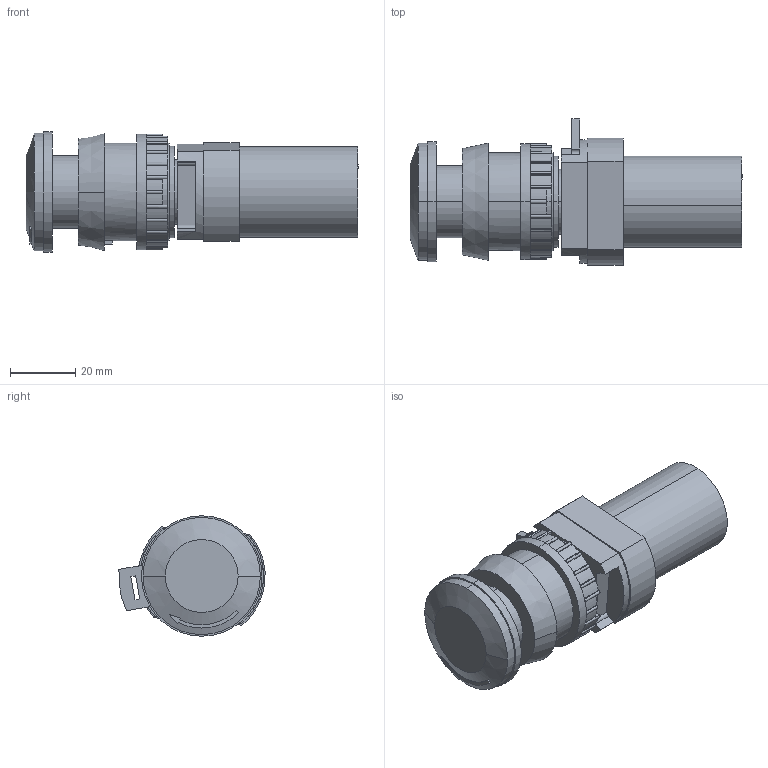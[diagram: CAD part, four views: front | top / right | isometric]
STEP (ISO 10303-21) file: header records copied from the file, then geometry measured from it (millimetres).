
FILE_DESCRIPTION (( 'STEP AP214' ), '1' );
FILE_NAME ('18-T-30-018---T-30-510_Airtec.step', '2018-11-15T13:06:41', ( '' ), ( '' ), 'SwSTEP 2.0', 'SolidWorks 2010', '' );
FILE_SCHEMA (( 'AUTOMOTIVE_DESIGN' ));
Length unit declared in the file: millimetre
Products named in the file (3): T-30-510-Airtec; 18-T-30-018-Airtec; 18-T-30-018---T-30-510_Airtec
Assembly tree (2 placements, depth 2):
  18-T-30-018---T-30-510_Airtec
    18-T-30-018-Airtec
    T-30-510-Airtec
Bounding box: 102 x 44.86 x 37 mm (x, y, z)
Volume: 72445.8 mm3; surface area: 18491.9 mm2
Topology: 2 solids, 2 shells, 409 faces, 1111 edges, 719 vertices
Faces by surface type: plane 220, cylinder 173, cone 16
Entity records: 13020 total; most frequent: DIRECTION 2352, CARTESIAN_POINT 2246, ORIENTED_EDGE 2202, EDGE_CURVE 1101, AXIS2_PLACEMENT_3D 841, VERTEX_POINT 719, VECTOR 670, LINE 670
